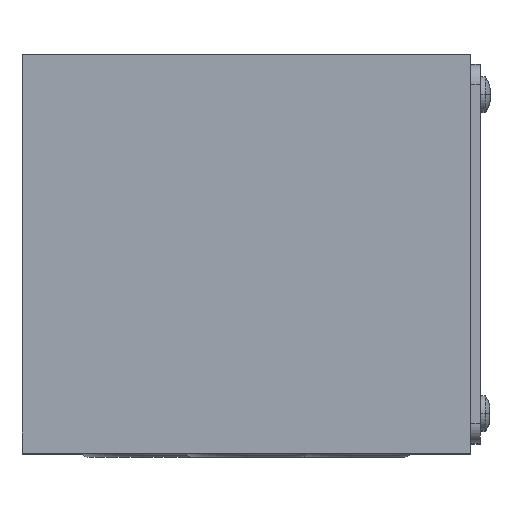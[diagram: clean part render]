
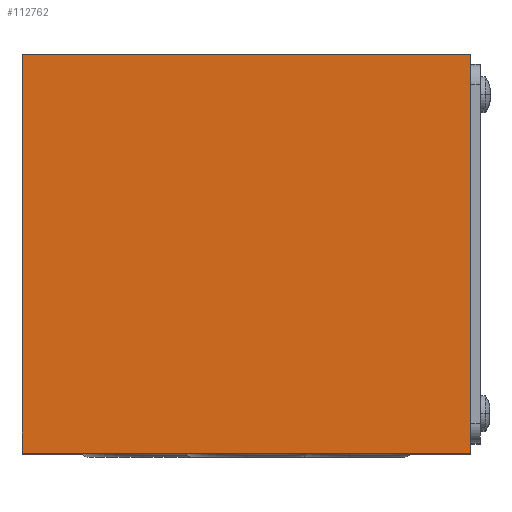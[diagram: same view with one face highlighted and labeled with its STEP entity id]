
A CAD part, top view. The second image highlights one B-rep face of the part: STEP entity #112762.
In plain terms, the highlighted planar face has unit normal (0, 0, 1) as drawn and (0, 0, -1) by its records, which use the part's own axes.
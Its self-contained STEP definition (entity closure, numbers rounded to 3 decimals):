
#857 = VECTOR ( 'NONE', #56458, 1000. ) ;
#3807 = VERTEX_POINT ( 'NONE', #52474 ) ;
#11295 = LINE ( 'NONE', #83544, #57690 ) ;
#12269 = ORIENTED_EDGE ( 'NONE', *, *, #88674, .F. ) ;
#12937 = DIRECTION ( 'NONE',  ( 0., -1., 0. ) ) ;
#15027 = CARTESIAN_POINT ( 'NONE',  ( -22.5, 20., -32.5 ) ) ;
#31276 = CARTESIAN_POINT ( 'NONE',  ( 22.5, 20., -32.5 ) ) ;
#35697 = CARTESIAN_POINT ( 'NONE',  ( -22.5, 20., -32.5 ) ) ;
#36366 = LINE ( 'NONE', #108859, #857 ) ;
#39516 = LINE ( 'NONE', #31276, #62714 ) ;
#41563 = EDGE_LOOP ( 'NONE', ( #97559, #78639, #72262, #12269 ) ) ;
#48576 = FACE_OUTER_BOUND ( 'NONE', #41563, .T. ) ;
#49709 = DIRECTION ( 'NONE',  ( -1., 0., 0. ) ) ;
#51029 = CARTESIAN_POINT ( 'NONE',  ( 22.5, 20., -32.5 ) ) ;
#52474 = CARTESIAN_POINT ( 'NONE',  ( 22.5, -20., -32.5 ) ) ;
#56458 = DIRECTION ( 'NONE',  ( 1., 0., 0. ) ) ;
#57690 = VECTOR ( 'NONE', #12937, 1000. ) ;
#62714 = VECTOR ( 'NONE', #92769, 1000. ) ;
#68071 = CARTESIAN_POINT ( 'NONE',  ( -22.5, -20., -32.5 ) ) ;
#69564 = LINE ( 'NONE', #15027, #113319 ) ;
#72262 = ORIENTED_EDGE ( 'NONE', *, *, #78796, .F. ) ;
#72876 = VERTEX_POINT ( 'NONE', #35697 ) ;
#75325 = EDGE_CURVE ( 'NONE', #110434, #72876, #69564, .T. ) ;
#78639 = ORIENTED_EDGE ( 'NONE', *, *, #75325, .F. ) ;
#78796 = EDGE_CURVE ( 'NONE', #3807, #110434, #39516, .T. ) ;
#82826 = AXIS2_PLACEMENT_3D ( 'NONE', #91692, #100116, #109254 ) ;
#83544 = CARTESIAN_POINT ( 'NONE',  ( -22.5, 20., -32.5 ) ) ;
#88674 = EDGE_CURVE ( 'NONE', #101059, #3807, #36366, .T. ) ;
#91692 = CARTESIAN_POINT ( 'NONE',  ( -22.5, -20., -32.5 ) ) ;
#92769 = DIRECTION ( 'NONE',  ( 0., 1., 0. ) ) ;
#97559 = ORIENTED_EDGE ( 'NONE', *, *, #98145, .F. ) ;
#98145 = EDGE_CURVE ( 'NONE', #72876, #101059, #11295, .T. ) ;
#100116 = DIRECTION ( 'NONE',  ( 0., 0., 1. ) ) ;
#100498 = PLANE ( 'NONE',  #82826 ) ;
#101059 = VERTEX_POINT ( 'NONE', #68071 ) ;
#108859 = CARTESIAN_POINT ( 'NONE',  ( -22.5, -20., -32.5 ) ) ;
#109254 = DIRECTION ( 'NONE',  ( 1., 0., 0. ) ) ;
#110434 = VERTEX_POINT ( 'NONE', #51029 ) ;
#112762 = ADVANCED_FACE ( 'NONE', ( #48576 ), #100498, .F. ) ;
#113319 = VECTOR ( 'NONE', #49709, 1000. ) ;
